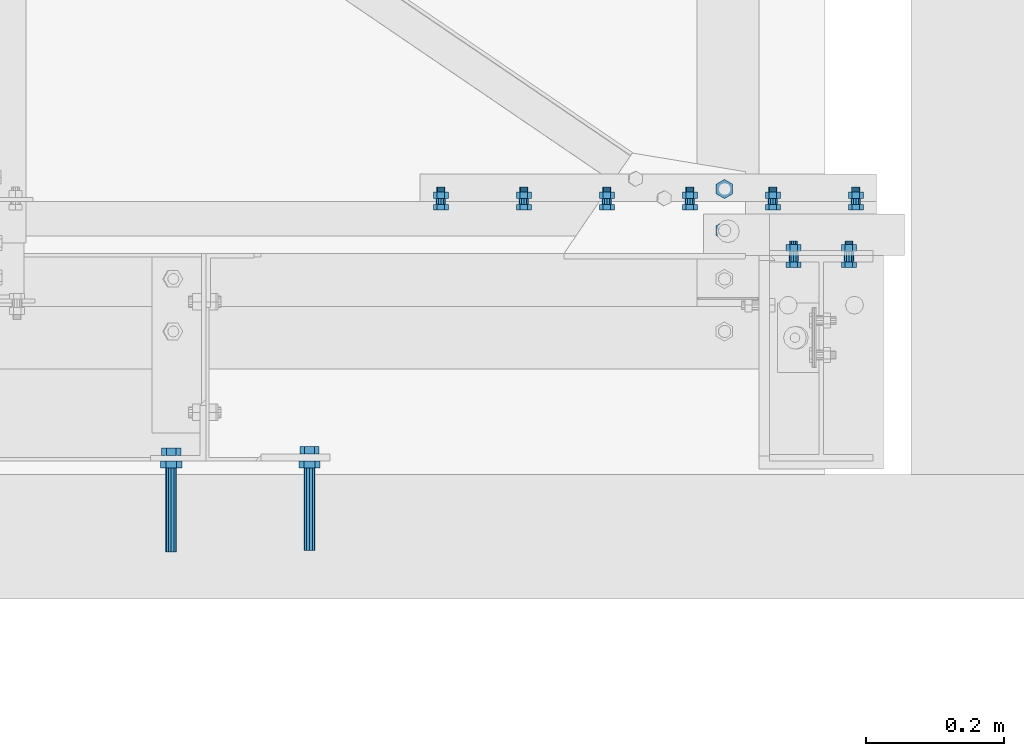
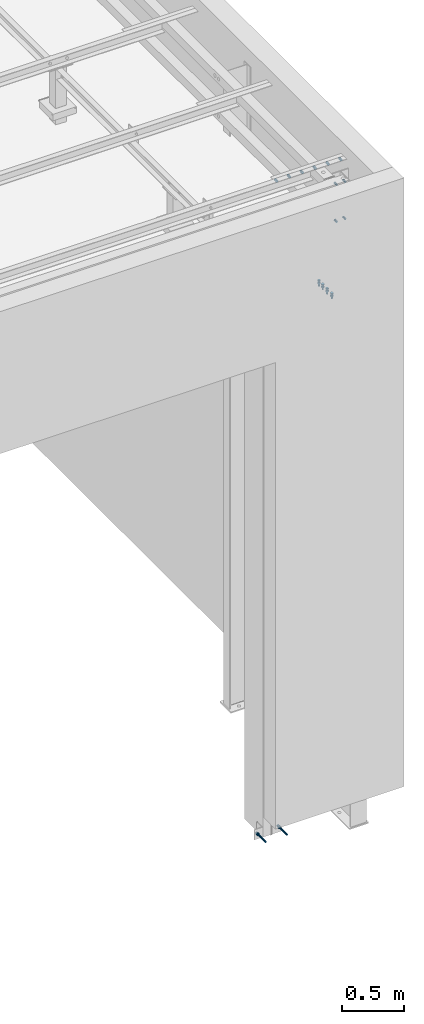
# One storey, part 340 of 3134: 6 mechanical fasteners, 5 elements without a shape of their own.
"""IFC2X3 building model written with IfcOpenShell, lengths in millimetres."""

from ifc_helpers import new_model, si_unit, frame, origin_with_axes, place, context, subcontext, project, spatial, faceted_brep, source, transform, mapped, material, type_object, element, aggregate, save


model = new_model("IFC2X3")

# Units and contexts
model_context = context("Model", 3, precision=1e-05, world=origin_with_axes())
body_context = subcontext(model_context, "Body", "Model", "MODEL_VIEW")
ifc_project = project(units=[si_unit("LENGTHUNIT", "METRE", prefix="MILLI"), si_unit("AREAUNIT", "SQUARE_METRE"), si_unit("VOLUMEUNIT", "CUBIC_METRE"), si_unit("MASSUNIT", "GRAM", prefix="KILO"), si_unit("TIMEUNIT", "SECOND"), si_unit("PLANEANGLEUNIT", "RADIAN"), si_unit("SOLIDANGLEUNIT", "STERADIAN"), si_unit("THERMODYNAMICTEMPERATUREUNIT", "DEGREE_CELSIUS"), si_unit("LUMINOUSINTENSITYUNIT", "LUMEN")], contexts=[model_context])

# Site, building, storey
site_placement = place(None, origin_with_axes())
site = spatial("IfcSite", under=ifc_project, at=site_placement, CompositionType="ELEMENT")
building_placement = place(site_placement, origin_with_axes())
building = spatial("IfcBuilding", under=site, at=building_placement, Name="Undefined", CompositionType="ELEMENT")
storey_placement = place(building_placement, origin_with_axes())
storey = spatial("IfcBuildingStorey", under=building, at=storey_placement, Name="Undefined", CompositionType="ELEMENT", Elevation=0.0)

# Assembly, mechanical fasteners
assembly_1_placement = place(storey_placement, origin_with_axes())
assembly_1 = element("IfcElementAssembly", 1, at=assembly_1_placement, inside=storey, AssemblyPlace="NOTDEFINED", PredefinedType="RIGID_FRAME")
ifc_material_1 = material(Name="HILTI-HSA")
mechanical_fastener_type = type_object("IfcMechanicalFastenerType", Name="Bolt assembly")
shared_shape_1 = source(origin_with_axes(), body_context, "Body", "Brep", [
    faceted_brep([(13.856406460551, -20.56, 0.0), (6.92820323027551, -20.56, 12.0), (-6.92820323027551, -20.56, 12.0), (-13.856406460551, -20.56, 1.69692038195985e-15), (-6.92820323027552, -20.56, -12.0), (6.9282032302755, -20.56, -12.0), (6.9282032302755, -10.0, -12.0), (-6.92820323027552, -10.0, -12.0), (-13.856406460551, -10.0, 1.69692038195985e-15), (-6.92820323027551, -10.0, 12.0), (6.92820323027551, -10.0, 12.0), (13.856406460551, -10.0, 0.0), (8.0, -10.0, 0.0), (6.92820323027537, -10.0, 4.00000000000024), (3.99999999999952, -10.0, 6.92820323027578), (-8.29068785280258e-13, -10.0, 8.0), (-4.00000000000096, -10.0, 6.92820323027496), (-6.9282032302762, -10.0, 3.99999999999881), (-8.0, -10.0, -1.65813757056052e-12), (-6.92820323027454, -10.0, -4.00000000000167), (-3.99999999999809, -10.0, -6.92820323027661), (2.47832457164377e-12, -10.0, -8.0), (4.00000000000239, -10.0, -6.92820323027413), (6.92820323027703, -10.0, -3.99999999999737), (6.92820323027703, 130.0, -3.99999999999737), (4.00000000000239, 130.0, -6.92820323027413), (2.47832457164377e-12, 130.0, -8.0), (-3.99999999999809, 130.0, -6.92820323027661), (-6.92820323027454, 130.0, -4.00000000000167), (-8.0, 130.0, -1.65813757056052e-12), (-6.9282032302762, 130.0, 3.99999999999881), (-4.00000000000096, 130.0, 6.92820323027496), (-8.29068785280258e-13, 130.0, 8.0), (3.99999999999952, 130.0, 6.92820323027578), (6.92820323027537, 130.0, 4.00000000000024), (8.0, 130.0, 0.0), (15.3344231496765, 7.105427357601e-15, 0.0), (7.66721157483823, 7.105427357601e-15, 13.28), (-7.66721157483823, 7.105427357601e-15, 13.28), (-15.3344231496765, 7.105427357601e-15, 1.87792522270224e-15), (-7.66721157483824, 7.105427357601e-15, -13.28), (7.66721157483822, 7.105427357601e-15, -13.28), (7.66721157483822, 10.56, -13.28), (-7.66721157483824, 10.56, -13.28), (-15.3344231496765, 10.56, 1.87792522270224e-15), (-7.66721157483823, 10.56, 13.28), (7.66721157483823, 10.56, 13.28), (15.3344231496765, 10.56, 0.0)], [[[0, 1, 2, 3, 4, 5]], [[6, 7, 8, 9, 10, 11]], [[0, 11, 10, 1]], [[1, 10, 9, 2]], [[2, 9, 8, 3]], [[3, 8, 7, 4]], [[4, 7, 6, 5]], [[5, 6, 11, 0]], [[12, 13, 14, 15, 16, 17, 18, 19, 20, 21, 22, 23]], [[24, 25, 26, 27, 28, 29, 30, 31, 32, 33, 34, 35]], [[12, 35, 34, 13]], [[13, 34, 33, 14]], [[14, 33, 32, 15]], [[15, 32, 31, 16]], [[16, 31, 30, 17]], [[17, 30, 29, 18]], [[18, 29, 28, 19]], [[19, 28, 27, 20]], [[20, 27, 26, 21]], [[21, 26, 25, 22]], [[22, 25, 24, 23]], [[23, 24, 35, 12]], [[36, 37, 38, 39, 40, 41]], [[42, 43, 44, 45, 46, 47]], [[36, 47, 46, 37]], [[37, 46, 45, 38]], [[38, 45, 44, 39]], [[39, 44, 43, 40]], [[40, 43, 42, 41]], [[41, 42, 47, 36]]]),
    faceted_brep([(9.0, -10.0, 0.0), (7.79422863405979, -10.0, 4.50000000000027), (4.49999999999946, -10.0, 7.79422863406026), (-9.3270238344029e-13, -10.0, 9.0), (-4.50000000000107, -10.0, 7.79422863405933), (-7.79422863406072, -10.0, 4.49999999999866), (-9.0, -10.0, -1.86540476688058e-12), (-7.79422863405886, -10.0, -4.50000000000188), (-4.49999999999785, -10.0, -7.79422863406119), (2.78811514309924e-12, -10.0, -9.0), (4.50000000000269, -10.0, -7.7942286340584), (7.79422863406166, -10.0, -4.49999999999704), (7.79422863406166, 0.100000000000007, -4.49999999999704), (4.50000000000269, 0.100000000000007, -7.7942286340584), (2.78811514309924e-12, 0.100000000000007, -9.0), (-4.49999999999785, 0.100000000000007, -7.79422863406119), (-7.79422863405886, 0.100000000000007, -4.50000000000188), (-9.0, 0.100000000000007, -1.86540476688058e-12), (-7.79422863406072, 0.100000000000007, 4.49999999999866), (-4.50000000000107, 0.100000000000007, 7.79422863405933), (-9.3270238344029e-13, 0.100000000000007, 9.0), (4.49999999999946, 0.100000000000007, 7.79422863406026), (7.79422863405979, 0.100000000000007, 4.50000000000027), (9.0, 0.100000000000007, 0.0)], [[[0, 1, 2, 3, 4, 5, 6, 7, 8, 9, 10, 11]], [[12, 13, 14, 15, 16, 17, 18, 19, 20, 21, 22, 23]], [[0, 23, 22, 1]], [[1, 22, 21, 2]], [[2, 21, 20, 3]], [[3, 20, 19, 4]], [[4, 19, 18, 5]], [[5, 18, 17, 6]], [[6, 17, 16, 7]], [[7, 16, 15, 8]], [[8, 15, 14, 9]], [[9, 14, 13, 10]], [[10, 13, 12, 11]], [[11, 12, 23, 0]]]),
])
mechanical_fastener_1_placement = place(assembly_1_placement, frame((78485.0, -225.0, -150.0), z_axis=(0.0, 0.0, 1.0), x_axis=(-1.0, 0.0, 0.0)))
mechanical_fastener_1 = element("IfcMechanicalFastener", 2, at=mechanical_fastener_1_placement, type_object=mechanical_fastener_type, material=ifc_material_1, Name="Bolt assembly", NominalDiameter=16.0, NominalLength=140.0, context=body_context, shape_type="MappedRepresentation", body=[
    mapped(shared_shape_1, transform((0.0, 0.0, 0.0))),
])
shared_shape_2 = source(origin_with_axes(), body_context, "Body", "Brep", [
    faceted_brep([(13.856406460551, -18.56, 0.0), (6.92820323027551, -18.56, 12.0), (-6.92820323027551, -18.56, 12.0), (-13.856406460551, -18.56, 1.69692038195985e-15), (-6.92820323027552, -18.56, -12.0), (6.9282032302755, -18.56, -12.0), (6.9282032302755, -7.99999766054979, -12.0), (-6.92820323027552, -7.99999766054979, -12.0), (-13.856406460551, -7.99999766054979, 1.69692038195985e-15), (-6.92820323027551, -7.99999766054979, 12.0), (6.92820323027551, -7.99999766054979, 12.0), (13.856406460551, -7.99999766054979, 0.0), (8.0, -8.0, 0.0), (6.92820323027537, -8.0, 4.00000000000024), (3.99999999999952, -8.0, 6.92820323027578), (-8.29068785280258e-13, -8.0, 8.0), (-4.00000000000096, -8.0, 6.92820323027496), (-6.9282032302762, -8.0, 3.99999999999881), (-8.0, -8.0, -1.65813757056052e-12), (-6.92820323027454, -8.0, -4.00000000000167), (-3.99999999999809, -8.0, -6.92820323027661), (2.47832457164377e-12, -8.0, -8.0), (4.00000000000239, -8.0, -6.92820323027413), (6.92820323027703, -8.0, -3.99999999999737), (6.92820323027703, 132.0, -3.99999999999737), (4.00000000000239, 132.0, -6.92820323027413), (2.47832457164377e-12, 132.0, -8.0), (-3.99999999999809, 132.0, -6.92820323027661), (-6.92820323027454, 132.0, -4.00000000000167), (-8.0, 132.0, -1.65813757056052e-12), (-6.9282032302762, 132.0, 3.99999999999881), (-4.00000000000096, 132.0, 6.92820323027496), (-8.29068785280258e-13, 132.0, 8.0), (3.99999999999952, 132.0, 6.92820323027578), (6.92820323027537, 132.0, 4.00000000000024), (8.0, 132.0, 0.0), (15.3344231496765, 7.105427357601e-15, 0.0), (7.66721157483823, 7.105427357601e-15, 13.28), (-7.66721157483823, 7.105427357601e-15, 13.28), (-15.3344231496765, 7.105427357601e-15, 1.87792522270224e-15), (-7.66721157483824, 7.105427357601e-15, -13.28), (7.66721157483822, 7.105427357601e-15, -13.28), (7.66721157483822, 10.56, -13.28), (-7.66721157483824, 10.56, -13.28), (-15.3344231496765, 10.56, 1.87792522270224e-15), (-7.66721157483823, 10.56, 13.28), (7.66721157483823, 10.56, 13.28), (15.3344231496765, 10.56, 0.0)], [[[0, 1, 2, 3, 4, 5]], [[6, 7, 8, 9, 10, 11]], [[0, 11, 10, 1]], [[1, 10, 9, 2]], [[2, 9, 8, 3]], [[3, 8, 7, 4]], [[4, 7, 6, 5]], [[5, 6, 11, 0]], [[12, 13, 14, 15, 16, 17, 18, 19, 20, 21, 22, 23]], [[24, 25, 26, 27, 28, 29, 30, 31, 32, 33, 34, 35]], [[12, 35, 34, 13]], [[13, 34, 33, 14]], [[14, 33, 32, 15]], [[15, 32, 31, 16]], [[16, 31, 30, 17]], [[17, 30, 29, 18]], [[18, 29, 28, 19]], [[19, 28, 27, 20]], [[20, 27, 26, 21]], [[21, 26, 25, 22]], [[22, 25, 24, 23]], [[23, 24, 35, 12]], [[36, 37, 38, 39, 40, 41]], [[42, 43, 44, 45, 46, 47]], [[36, 47, 46, 37]], [[37, 46, 45, 38]], [[38, 45, 44, 39]], [[39, 44, 43, 40]], [[40, 43, 42, 41]], [[41, 42, 47, 36]]]),
    faceted_brep([(9.0, -8.0, 0.0), (7.79422863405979, -8.0, 4.50000000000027), (4.49999999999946, -8.0, 7.79422863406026), (-9.3270238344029e-13, -8.0, 9.0), (-4.50000000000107, -8.0, 7.79422863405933), (-7.79422863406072, -8.0, 4.49999999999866), (-9.0, -8.0, -1.86540476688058e-12), (-7.79422863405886, -8.0, -4.50000000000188), (-4.49999999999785, -8.0, -7.79422863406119), (2.78811514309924e-12, -8.0, -9.0), (4.50000000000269, -8.0, -7.7942286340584), (7.79422863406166, -8.0, -4.49999999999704), (7.79422863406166, 0.100000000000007, -4.49999999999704), (4.50000000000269, 0.100000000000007, -7.7942286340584), (2.78811514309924e-12, 0.100000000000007, -9.0), (-4.49999999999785, 0.100000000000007, -7.79422863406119), (-7.79422863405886, 0.100000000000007, -4.50000000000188), (-9.0, 0.100000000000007, -1.86540476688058e-12), (-7.79422863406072, 0.100000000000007, 4.49999999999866), (-4.50000000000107, 0.100000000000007, 7.79422863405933), (-9.3270238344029e-13, 0.100000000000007, 9.0), (4.49999999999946, 0.100000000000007, 7.79422863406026), (7.79422863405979, 0.100000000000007, 4.50000000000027), (9.0, 0.100000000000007, 0.0)], [[[0, 1, 2, 3, 4, 5, 6, 7, 8, 9, 10, 11]], [[12, 13, 14, 15, 16, 17, 18, 19, 20, 21, 22, 23]], [[0, 23, 22, 1]], [[1, 22, 21, 2]], [[2, 21, 20, 3]], [[3, 20, 19, 4]], [[4, 19, 18, 5]], [[5, 18, 17, 6]], [[6, 17, 16, 7]], [[7, 16, 15, 8]], [[8, 15, 14, 9]], [[9, 14, 13, 10]], [[10, 13, 12, 11]], [[11, 12, 23, 0]]]),
])
mechanical_fastener_2_placement = place(assembly_1_placement, frame((78285.0, -225.0, -150.0), z_axis=(0.0, 0.0, -1.0), x_axis=(1.0, 0.0, 0.0)))
mechanical_fastener_2 = element("IfcMechanicalFastener", 3, at=mechanical_fastener_2_placement, type_object=mechanical_fastener_type, material=ifc_material_1, Name="Bolt assembly", NominalDiameter=16.0, NominalLength=140.0, context=body_context, shape_type="MappedRepresentation", body=[
    mapped(shared_shape_2, transform((0.0, 0.0, 0.0))),
])
aggregate(assembly_1, [mechanical_fastener_1, mechanical_fastener_2])

# Assembly, mechanical fastener
assembly_2_placement = place(storey_placement, origin_with_axes())
assembly_2 = element("IfcElementAssembly", 4, at=assembly_2_placement, inside=storey, Name="UPN260", AssemblyPlace="NOTDEFINED", PredefinedType="RIGID_FRAME")
ifc_material_2 = material(Name="8.8")
shared_shape_3 = source(origin_with_axes(), body_context, "Body", "Brep", [
    faceted_brep([(13.856406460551, -10.0, 0.0), (6.92820323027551, -10.0, 12.0), (-6.92820323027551, -10.0, 12.0), (-13.856406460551, -10.0, 1.69692038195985e-15), (-6.92820323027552, -10.0, -12.0), (6.9282032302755, -10.0, -12.0), (6.9282032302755, 0.0, -12.0), (-6.92820323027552, 0.0, -12.0), (-13.856406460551, 0.0, 1.69692038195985e-15), (-6.92820323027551, 0.0, 12.0), (6.92820323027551, 0.0, 12.0), (13.856406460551, 0.0, 0.0), (8.0, 0.0, 0.0), (6.92820323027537, 0.0, 4.00000000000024), (3.99999999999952, 0.0, 6.92820323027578), (-8.29068785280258e-13, 0.0, 8.0), (-4.00000000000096, 0.0, 6.92820323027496), (-6.9282032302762, 0.0, 3.99999999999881), (-8.0, 0.0, -1.65813757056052e-12), (-6.92820323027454, 0.0, -4.00000000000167), (-3.99999999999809, 0.0, -6.92820323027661), (2.47832457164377e-12, 0.0, -8.0), (4.00000000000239, 0.0, -6.92820323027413), (6.92820323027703, 0.0, -3.99999999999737), (6.92820323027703, 49.9999999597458, -3.99999999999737), (4.00000000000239, 49.9999999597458, -6.92820323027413), (2.47832457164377e-12, 49.9999999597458, -8.0), (-3.99999999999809, 49.9999999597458, -6.92820323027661), (-6.92820323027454, 49.9999999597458, -4.00000000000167), (-8.0, 49.9999999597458, -1.65813757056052e-12), (-6.9282032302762, 49.9999999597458, 3.99999999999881), (-4.00000000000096, 49.9999999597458, 6.92820323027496), (-8.29068785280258e-13, 49.9999999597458, 8.0), (3.99999999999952, 49.9999999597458, 6.92820323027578), (6.92820323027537, 49.9999999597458, 4.00000000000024), (8.0, 49.9999999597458, 0.0), (13.856406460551, 13.9999999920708, 0.0), (6.92820323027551, 13.9999999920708, 12.0), (-6.92820323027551, 13.9999999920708, 12.0), (-13.856406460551, 13.9999999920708, 1.69692038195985e-15), (-6.92820323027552, 13.9999999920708, -12.0), (6.9282032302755, 13.9999999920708, -12.0), (6.9282032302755, 27.0, -12.0), (-6.92820323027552, 27.0, -12.0), (-13.856406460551, 27.0, 1.69692038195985e-15), (-6.92820323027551, 27.0, 12.0), (6.92820323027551, 27.0, 12.0), (13.856406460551, 27.0, 0.0)], [[[0, 1, 2, 3, 4, 5]], [[6, 7, 8, 9, 10, 11]], [[0, 11, 10, 1]], [[1, 10, 9, 2]], [[2, 9, 8, 3]], [[3, 8, 7, 4]], [[4, 7, 6, 5]], [[5, 6, 11, 0]], [[12, 13, 14, 15, 16, 17, 18, 19, 20, 21, 22, 23]], [[24, 25, 26, 27, 28, 29, 30, 31, 32, 33, 34, 35]], [[12, 35, 34, 13]], [[13, 34, 33, 14]], [[14, 33, 32, 15]], [[15, 32, 31, 16]], [[16, 31, 30, 17]], [[17, 30, 29, 18]], [[18, 29, 28, 19]], [[19, 28, 27, 20]], [[20, 27, 26, 21]], [[21, 26, 25, 22]], [[22, 25, 24, 23]], [[23, 24, 35, 12]], [[36, 37, 38, 39, 40, 41]], [[42, 43, 44, 45, 46, 47]], [[36, 47, 46, 37]], [[37, 46, 45, 38]], [[38, 45, 44, 39]], [[39, 44, 43, 40]], [[40, 43, 42, 41]], [[41, 42, 47, 36]]]),
    faceted_brep([(9.0, -3.46568413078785e-07, 0.0), (7.79422863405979, -3.46568413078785e-07, 4.50000000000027), (4.49999999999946, -3.46568413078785e-07, 7.79422863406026), (-9.3270238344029e-13, -3.46568413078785e-07, 9.0), (-4.50000000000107, -3.46568413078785e-07, 7.79422863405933), (-7.79422863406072, -3.46568413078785e-07, 4.49999999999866), (-9.0, -3.46568413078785e-07, -1.86540476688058e-12), (-7.79422863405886, -3.46568413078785e-07, -4.50000000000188), (-4.49999999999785, -3.46568413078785e-07, -7.79422863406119), (2.78811514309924e-12, -3.46568413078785e-07, -9.0), (4.50000000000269, -3.46568413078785e-07, -7.7942286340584), (7.79422863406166, -3.46568413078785e-07, -4.49999999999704), (7.79422863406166, 14.1000000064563, -4.49999999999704), (4.50000000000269, 14.1000000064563, -7.7942286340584), (2.78811514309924e-12, 14.1000000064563, -9.0), (-4.49999999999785, 14.1000000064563, -7.79422863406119), (-7.79422863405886, 14.1000000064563, -4.50000000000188), (-9.0, 14.1000000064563, -1.86540476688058e-12), (-7.79422863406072, 14.1000000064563, 4.49999999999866), (-4.50000000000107, 14.1000000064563, 7.79422863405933), (-9.3270238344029e-13, 14.1000000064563, 9.0), (4.49999999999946, 14.1000000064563, 7.79422863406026), (7.79422863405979, 14.1000000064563, 4.50000000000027), (9.0, 14.1000000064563, 0.0)], [[[0, 1, 2, 3, 4, 5, 6, 7, 8, 9, 10, 11]], [[12, 13, 14, 15, 16, 17, 18, 19, 20, 21, 22, 23]], [[0, 23, 22, 1]], [[1, 22, 21, 2]], [[2, 21, 20, 3]], [[3, 20, 19, 4]], [[4, 19, 18, 5]], [[5, 18, 17, 6]], [[6, 17, 16, 7]], [[7, 16, 15, 8]], [[8, 15, 14, 9]], [[9, 14, 13, 10]], [[10, 13, 12, 11]], [[11, 12, 23, 0]]]),
])
mechanical_fastener_3_placement = place(assembly_2_placement, frame((79085.0000000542, 168.0, 4783.72248603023), z_axis=(0.99999999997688, 0.0, 6.80000067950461e-06), x_axis=(0.0, -1.0, 0.0)))
mechanical_fastener_3 = element("IfcMechanicalFastener", 5, at=mechanical_fastener_3_placement, type_object=mechanical_fastener_type, material=ifc_material_2, Name="Bolt assembly", NominalDiameter=16.0, NominalLength=50.0, context=body_context, shape_type="MappedRepresentation", body=[
    mapped(shared_shape_3, transform((0.0, 0.0, 0.0))),
    mapped(shared_shape_3, transform((59.9999999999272, 0.0, 5.40239852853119e-10))),
    mapped(shared_shape_3, transform((130.0, 0.0, 0.0))),
    mapped(shared_shape_3, transform((206.0, 0.0, 0.0))),
])
aggregate(assembly_2, [mechanical_fastener_3])

assembly_3_placement = place(storey_placement, origin_with_axes())
assembly_3 = element("IfcElementAssembly", 6, at=assembly_3_placement, inside=storey, AssemblyPlace="NOTDEFINED", PredefinedType="RIGID_FRAME")
shared_shape_4 = source(origin_with_axes(), body_context, "Body", "Brep", [
    faceted_brep([(10.9696551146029, -12.0, 0.0), (5.48482755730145, -12.0, 9.5), (-5.48482755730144, -12.0, 9.5), (-10.9696551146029, -12.0, 1.34339530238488e-15), (-5.48482755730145, -12.0, -9.5), (5.48482755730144, -12.0, -9.50000000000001), (5.48482755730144, -4.0, -9.50000000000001), (-5.48482755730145, -4.0, -9.5), (-10.9696551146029, -4.0, 1.34339530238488e-15), (-5.48482755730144, -4.0, 9.5), (5.48482755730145, -4.0, 9.5), (10.9696551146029, -4.0, 0.0), (6.0, -4.0, 0.0), (5.19615242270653, -4.0, 3.00000000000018), (2.99999999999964, -4.0, 5.19615242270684), (-6.21801588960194e-13, -4.0, 6.0), (-3.00000000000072, -4.0, 5.19615242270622), (-5.19615242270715, -4.0, 2.9999999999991), (-6.0, -4.0, -1.24360317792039e-12), (-5.19615242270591, -4.0, -3.00000000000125), (-2.99999999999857, -4.0, -5.19615242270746), (1.85874342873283e-12, -4.0, -6.0), (3.00000000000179, -4.0, -5.1961524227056), (5.19615242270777, -4.0, -2.99999999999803), (5.19615242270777, 21.0, -2.99999999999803), (3.00000000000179, 21.0, -5.1961524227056), (1.85874342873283e-12, 21.0, -6.0), (-2.99999999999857, 21.0, -5.19615242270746), (-5.19615242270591, 21.0, -3.00000000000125), (-6.0, 21.0, -1.24360317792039e-12), (-5.19615242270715, 21.0, 2.9999999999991), (-3.00000000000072, 21.0, 5.19615242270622), (-6.21801588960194e-13, 21.0, 6.0), (2.99999999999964, 21.0, 5.19615242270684), (5.19615242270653, 21.0, 3.00000000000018), (6.0, 21.0, 0.0), (10.9696551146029, 4.00000000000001, 0.0), (5.48482755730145, 4.00000000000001, 9.5), (-5.48482755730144, 4.00000000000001, 9.5), (-10.9696551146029, 4.00000000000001, 1.34339530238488e-15), (-5.48482755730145, 4.00000000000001, -9.5), (5.48482755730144, 4.00000000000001, -9.50000000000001), (5.48482755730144, 14.0, -9.50000000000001), (-5.48482755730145, 14.0, -9.5), (-10.9696551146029, 14.0, 1.34339530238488e-15), (-5.48482755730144, 14.0, 9.5), (5.48482755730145, 14.0, 9.5), (10.9696551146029, 14.0, 0.0)], [[[0, 1, 2, 3, 4, 5]], [[6, 7, 8, 9, 10, 11]], [[0, 11, 10, 1]], [[1, 10, 9, 2]], [[2, 9, 8, 3]], [[3, 8, 7, 4]], [[4, 7, 6, 5]], [[5, 6, 11, 0]], [[12, 13, 14, 15, 16, 17, 18, 19, 20, 21, 22, 23]], [[24, 25, 26, 27, 28, 29, 30, 31, 32, 33, 34, 35]], [[12, 35, 34, 13]], [[13, 34, 33, 14]], [[14, 33, 32, 15]], [[15, 32, 31, 16]], [[16, 31, 30, 17]], [[17, 30, 29, 18]], [[18, 29, 28, 19]], [[19, 28, 27, 20]], [[20, 27, 26, 21]], [[21, 26, 25, 22]], [[22, 25, 24, 23]], [[23, 24, 35, 12]], [[36, 37, 38, 39, 40, 41]], [[42, 43, 44, 45, 46, 47]], [[36, 47, 46, 37]], [[37, 46, 45, 38]], [[38, 45, 44, 39]], [[39, 44, 43, 40]], [[40, 43, 42, 41]], [[41, 42, 47, 36]]]),
    faceted_brep([(7.0, -0.1, 0.0), (6.06217782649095, -0.1, 3.50000000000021), (3.49999999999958, -0.1, 6.06217782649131), (-7.25435187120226e-13, -0.1, 7.0), (-3.50000000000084, -0.1, 6.06217782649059), (-6.06217782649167, -0.1, 3.49999999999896), (-7.0, -0.1, -1.45087037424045e-12), (-6.06217782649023, -0.1, -3.50000000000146), (-3.49999999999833, -0.1, -6.06217782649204), (2.1685340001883e-12, -0.1, -7.0), (3.50000000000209, -0.1, -6.06217782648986), (6.0621778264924, -0.1, -3.4999999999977), (6.0621778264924, 4.00000000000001, -3.4999999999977), (3.50000000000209, 4.00000000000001, -6.06217782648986), (2.1685340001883e-12, 4.00000000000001, -7.0), (-3.49999999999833, 4.00000000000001, -6.06217782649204), (-6.06217782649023, 4.00000000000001, -3.50000000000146), (-7.0, 4.00000000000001, -1.45087037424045e-12), (-6.06217782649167, 4.00000000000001, 3.49999999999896), (-3.50000000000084, 4.00000000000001, 6.06217782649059), (-7.25435187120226e-13, 4.00000000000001, 7.0), (3.49999999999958, 4.00000000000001, 6.06217782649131), (6.06217782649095, 4.00000000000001, 3.50000000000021), (7.0, 4.00000000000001, 0.0), (7.0, -3.9, 0.0), (6.06217782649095, -3.9, 3.50000000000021), (3.49999999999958, -3.9, 6.06217782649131), (-7.25435187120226e-13, -3.9, 7.0), (-3.50000000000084, -3.9, 6.06217782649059), (-6.06217782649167, -3.9, 3.49999999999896), (-7.0, -3.9, -1.45087037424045e-12), (-6.06217782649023, -3.9, -3.50000000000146), (-3.49999999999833, -3.9, -6.06217782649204), (2.1685340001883e-12, -3.9, -7.0), (3.50000000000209, -3.9, -6.06217782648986), (6.0621778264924, -3.9, -3.4999999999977), (6.0621778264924, 0.0999999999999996, -3.4999999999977), (3.50000000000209, 0.0999999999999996, -6.06217782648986), (2.1685340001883e-12, 0.0999999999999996, -7.0), (-3.49999999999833, 0.0999999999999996, -6.06217782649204), (-6.06217782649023, 0.0999999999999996, -3.50000000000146), (-7.0, 0.0999999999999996, -1.45087037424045e-12), (-6.06217782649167, 0.0999999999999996, 3.49999999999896), (-3.50000000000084, 0.0999999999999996, 6.06217782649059), (-7.25435187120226e-13, 0.0999999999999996, 7.0), (3.49999999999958, 0.0999999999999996, 6.06217782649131), (6.06217782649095, 0.0999999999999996, 3.50000000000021), (7.0, 0.0999999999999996, 0.0)], [[[0, 1, 2, 3, 4, 5, 6, 7, 8, 9, 10, 11]], [[12, 13, 14, 15, 16, 17, 18, 19, 20, 21, 22, 23]], [[0, 23, 22, 1]], [[1, 22, 21, 2]], [[2, 21, 20, 3]], [[3, 20, 19, 4]], [[4, 19, 18, 5]], [[5, 18, 17, 6]], [[6, 17, 16, 7]], [[7, 16, 15, 8]], [[8, 15, 14, 9]], [[9, 14, 13, 10]], [[10, 13, 12, 11]], [[11, 12, 23, 0]], [[24, 25, 26, 27, 28, 29, 30, 31, 32, 33, 34, 35]], [[36, 37, 38, 39, 40, 41, 42, 43, 44, 45, 46, 47]], [[24, 47, 46, 25]], [[25, 46, 45, 26]], [[26, 45, 44, 27]], [[27, 44, 43, 28]], [[28, 43, 42, 29]], [[29, 42, 41, 30]], [[30, 41, 40, 31]], [[31, 40, 39, 32]], [[32, 39, 38, 33]], [[33, 38, 37, 34]], [[34, 37, 36, 35]], [[35, 36, 47, 24]]]),
])
mechanical_fastener_4_placement = place(assembly_3_placement, frame((78675.0, 150.0, 5928.0), z_axis=(0.0, 0.0, 1.0), x_axis=(1.0, 0.0, 0.0)))
mechanical_fastener_4 = element("IfcMechanicalFastener", 7, at=mechanical_fastener_4_placement, type_object=mechanical_fastener_type, material=ifc_material_2, Name="Bolt assembly", NominalDiameter=12.0, NominalLength=25.0, context=body_context, shape_type="MappedRepresentation", body=[
    mapped(shared_shape_4, transform((0.0, 0.0, 0.0))),
    mapped(shared_shape_4, transform((120.0, 0.0, 0.0))),
    mapped(shared_shape_4, transform((240.0, 0.0, 0.0))),
    mapped(shared_shape_4, transform((360.0, 0.0, 0.0))),
    mapped(shared_shape_4, transform((480.0, 0.0, 0.0))),
    mapped(shared_shape_4, transform((600.0, 0.0, 0.0))),
])
aggregate(assembly_3, [mechanical_fastener_4])

assembly_4_placement = place(storey_placement, origin_with_axes())
assembly_4 = element("IfcElementAssembly", 8, at=assembly_4_placement, inside=storey, AssemblyPlace="NOTDEFINED", PredefinedType="RIGID_FRAME")
shared_shape_5 = source(origin_with_axes(), body_context, "Body", "Brep", [
    faceted_brep([(10.9696551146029, -17.1999998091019, 0.0), (5.48482755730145, -17.1999998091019, 9.5), (-5.48482755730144, -17.1999998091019, 9.5), (-10.9696551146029, -17.1999998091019, 1.34339530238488e-15), (-5.48482755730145, -17.1999998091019, -9.5), (5.48482755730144, -17.1999998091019, -9.50000000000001), (5.48482755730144, -9.19999978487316, -9.50000000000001), (-5.48482755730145, -9.19999978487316, -9.5), (-10.9696551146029, -9.19999978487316, 1.34339530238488e-15), (-5.48482755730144, -9.19999978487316, 9.5), (5.48482755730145, -9.19999978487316, 9.5), (10.9696551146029, -9.19999978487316, 0.0), (6.0, -9.19999978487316, 0.0), (5.19615242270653, -9.19999978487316, 3.00000000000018), (2.99999999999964, -9.19999978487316, 5.19615242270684), (-6.21801588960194e-13, -9.19999978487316, 6.0), (-3.00000000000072, -9.19999978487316, 5.19615242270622), (-5.19615242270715, -9.19999978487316, 2.9999999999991), (-6.0, -9.19999978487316, -1.24360317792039e-12), (-5.19615242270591, -9.19999978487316, -3.00000000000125), (-2.99999999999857, -9.19999978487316, -5.19615242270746), (1.85874342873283e-12, -9.19999978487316, -6.0), (3.00000000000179, -9.19999978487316, -5.1961524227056), (5.19615242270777, -9.19999978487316, -2.99999999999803), (5.19615242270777, 20.8000001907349, -2.99999999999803), (3.00000000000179, 20.8000001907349, -5.1961524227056), (1.85874342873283e-12, 20.8000001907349, -6.0), (-2.99999999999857, 20.8000001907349, -5.19615242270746), (-5.19615242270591, 20.8000001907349, -3.00000000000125), (-6.0, 20.8000001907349, -1.24360317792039e-12), (-5.19615242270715, 20.8000001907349, 2.9999999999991), (-3.00000000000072, 20.8000001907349, 5.19615242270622), (-6.21801588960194e-13, 20.8000001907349, 6.0), (2.99999999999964, 20.8000001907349, 5.19615242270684), (5.19615242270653, 20.8000001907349, 3.00000000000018), (6.0, 20.8000001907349, 0.0), (10.9696551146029, 6.00000000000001, 0.0), (5.48482755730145, 6.00000000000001, 9.5), (-5.48482755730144, 6.00000000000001, 9.5), (-10.9696551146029, 6.00000000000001, 1.34339530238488e-15), (-5.48482755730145, 6.00000000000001, -9.5), (5.48482755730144, 6.00000000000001, -9.50000000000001), (5.48482755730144, 16.0, -9.50000000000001), (-5.48482755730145, 16.0, -9.5), (-10.9696551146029, 16.0, 1.34339530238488e-15), (-5.48482755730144, 16.0, 9.5), (5.48482755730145, 16.0, 9.5), (10.9696551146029, 16.0, 0.0)], [[[0, 1, 2, 3, 4, 5]], [[6, 7, 8, 9, 10, 11]], [[0, 11, 10, 1]], [[1, 10, 9, 2]], [[2, 9, 8, 3]], [[3, 8, 7, 4]], [[4, 7, 6, 5]], [[5, 6, 11, 0]], [[12, 13, 14, 15, 16, 17, 18, 19, 20, 21, 22, 23]], [[24, 25, 26, 27, 28, 29, 30, 31, 32, 33, 34, 35]], [[12, 35, 34, 13]], [[13, 34, 33, 14]], [[14, 33, 32, 15]], [[15, 32, 31, 16]], [[16, 31, 30, 17]], [[17, 30, 29, 18]], [[18, 29, 28, 19]], [[19, 28, 27, 20]], [[20, 27, 26, 21]], [[21, 26, 25, 22]], [[22, 25, 24, 23]], [[23, 24, 35, 12]], [[36, 37, 38, 39, 40, 41]], [[42, 43, 44, 45, 46, 47]], [[36, 47, 46, 37]], [[37, 46, 45, 38]], [[38, 45, 44, 39]], [[39, 44, 43, 40]], [[40, 43, 42, 41]], [[41, 42, 47, 36]]]),
    faceted_brep([(7.0, -9.09999980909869, 0.0), (6.06217782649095, -9.09999980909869, 3.50000000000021), (3.49999999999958, -9.09999980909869, 6.06217782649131), (-7.25435187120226e-13, -9.09999980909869, 7.0), (-3.50000000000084, -9.09999980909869, 6.06217782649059), (-6.06217782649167, -9.09999980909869, 3.49999999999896), (-7.0, -9.09999980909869, -1.45087037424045e-12), (-6.06217782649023, -9.09999980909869, -3.50000000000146), (-3.49999999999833, -9.09999980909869, -6.06217782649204), (2.1685340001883e-12, -9.09999980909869, -7.0), (3.50000000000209, -9.09999980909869, -6.06217782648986), (6.0621778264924, -9.09999980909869, -3.4999999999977), (6.0621778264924, 0.0999999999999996, -3.4999999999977), (3.50000000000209, 0.0999999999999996, -6.06217782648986), (2.1685340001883e-12, 0.0999999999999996, -7.0), (-3.49999999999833, 0.0999999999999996, -6.06217782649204), (-6.06217782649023, 0.0999999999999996, -3.50000000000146), (-7.0, 0.0999999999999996, -1.45087037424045e-12), (-6.06217782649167, 0.0999999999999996, 3.49999999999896), (-3.50000000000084, 0.0999999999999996, 6.06217782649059), (-7.25435187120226e-13, 0.0999999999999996, 7.0), (3.49999999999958, 0.0999999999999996, 6.06217782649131), (6.06217782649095, 0.0999999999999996, 3.50000000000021), (7.0, 0.0999999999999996, 0.0), (7.0, -0.1, 0.0), (6.06217782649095, -0.1, 3.50000000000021), (3.49999999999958, -0.1, 6.06217782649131), (-7.25435187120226e-13, -0.1, 7.0), (-3.50000000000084, -0.1, 6.06217782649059), (-6.06217782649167, -0.1, 3.49999999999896), (-7.0, -0.1, -1.45087037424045e-12), (-6.06217782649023, -0.1, -3.50000000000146), (-3.49999999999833, -0.1, -6.06217782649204), (2.1685340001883e-12, -0.1, -7.0), (3.50000000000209, -0.1, -6.06217782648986), (6.0621778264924, -0.1, -3.4999999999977), (6.0621778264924, 6.00000000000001, -3.4999999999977), (3.50000000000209, 6.00000000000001, -6.06217782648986), (2.1685340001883e-12, 6.00000000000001, -7.0), (-3.49999999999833, 6.00000000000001, -6.06217782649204), (-6.06217782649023, 6.00000000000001, -3.50000000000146), (-7.0, 6.00000000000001, -1.45087037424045e-12), (-6.06217782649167, 6.00000000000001, 3.49999999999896), (-3.50000000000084, 6.00000000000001, 6.06217782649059), (-7.25435187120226e-13, 6.00000000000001, 7.0), (3.49999999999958, 6.00000000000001, 6.06217782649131), (6.06217782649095, 6.00000000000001, 3.50000000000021), (7.0, 6.00000000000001, 0.0)], [[[0, 1, 2, 3, 4, 5, 6, 7, 8, 9, 10, 11]], [[12, 13, 14, 15, 16, 17, 18, 19, 20, 21, 22, 23]], [[0, 23, 22, 1]], [[1, 22, 21, 2]], [[2, 21, 20, 3]], [[3, 20, 19, 4]], [[4, 19, 18, 5]], [[5, 18, 17, 6]], [[6, 17, 16, 7]], [[7, 16, 15, 8]], [[8, 15, 14, 9]], [[9, 14, 13, 10]], [[10, 13, 12, 11]], [[11, 12, 23, 0]], [[24, 25, 26, 27, 28, 29, 30, 31, 32, 33, 34, 35]], [[36, 37, 38, 39, 40, 41, 42, 43, 44, 45, 46, 47]], [[24, 47, 46, 25]], [[25, 46, 45, 26]], [[26, 45, 44, 27]], [[27, 44, 43, 28]], [[28, 43, 42, 29]], [[29, 42, 41, 30]], [[30, 41, 40, 31]], [[31, 40, 39, 32]], [[32, 39, 38, 33]], [[33, 38, 37, 34]], [[34, 37, 36, 35]], [[35, 36, 47, 24]]]),
])
mechanical_fastener_5_placement = place(assembly_4_placement, frame((79185.0, 72.0, 5398.82), z_axis=(0.0, 0.0, 1.0), x_axis=(1.0, 0.0, 0.0)))
mechanical_fastener_5 = element("IfcMechanicalFastener", 9, at=mechanical_fastener_5_placement, type_object=mechanical_fastener_type, material=ifc_material_2, Name="Bolt assembly", NominalDiameter=12.0, NominalLength=30.0, context=body_context, shape_type="MappedRepresentation", body=[
    mapped(shared_shape_5, transform((0.0, 0.0, 0.0))),
    mapped(shared_shape_5, transform((80.0, 0.0, 0.0))),
])
aggregate(assembly_4, [mechanical_fastener_5])

assembly_5_placement = place(storey_placement, origin_with_axes())
assembly_5 = element("IfcElementAssembly", 10, at=assembly_5_placement, inside=storey, AssemblyPlace="NOTDEFINED", PredefinedType="RIGID_FRAME")
mechanical_fastener_6_placement = place(assembly_5_placement, frame((79185.0, 72.0, 5765.0), z_axis=(0.0, 0.0, 1.0), x_axis=(1.0, 0.0, 0.0)))
mechanical_fastener_6 = element("IfcMechanicalFastener", 11, at=mechanical_fastener_6_placement, type_object=mechanical_fastener_type, material=ifc_material_2, Name="Bolt assembly", NominalDiameter=12.0, NominalLength=30.0, context=body_context, shape_type="MappedRepresentation", body=[
    mapped(shared_shape_5, transform((0.0, 0.0, 0.0))),
    mapped(shared_shape_5, transform((80.0, 0.0, 0.0))),
])
aggregate(assembly_5, [mechanical_fastener_6])

save(model, "model.ifc")
